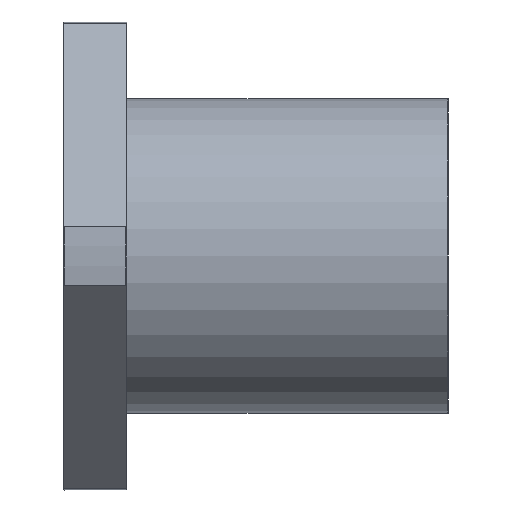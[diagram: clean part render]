
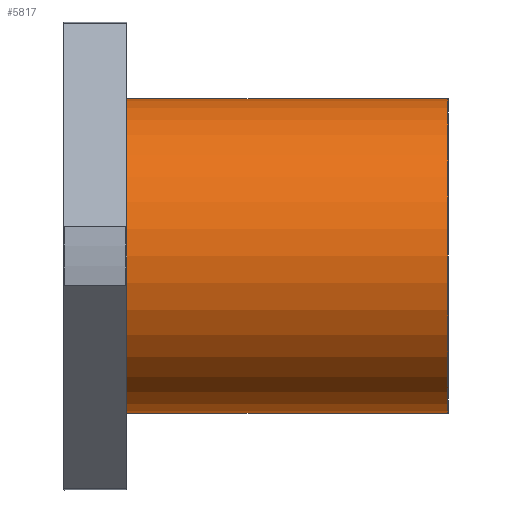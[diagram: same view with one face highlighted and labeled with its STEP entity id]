
A CAD part, front view. The second image highlights one B-rep face of the part: STEP entity #5817.
In plain terms, the highlighted cylindrical face has radius 45 mm (diameter 90 mm), a full revolution.
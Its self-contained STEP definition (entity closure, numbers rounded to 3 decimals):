
#86=CYLINDRICAL_SURFACE('',#6203,45.);
#137=CIRCLE('',#6202,45.);
#138=CIRCLE('',#6204,45.);
#605=ORIENTED_EDGE('',*,*,#2273,.F.);
#606=ORIENTED_EDGE('',*,*,#2272,.T.);
#2272=EDGE_CURVE('',#3101,#3101,#137,.T.);
#2273=EDGE_CURVE('',#3102,#3102,#138,.T.);
#3101=VERTEX_POINT('',#9301);
#3102=VERTEX_POINT('',#9304);
#4767=EDGE_LOOP('',(#605));
#4768=EDGE_LOOP('',(#606));
#5188=FACE_BOUND('',#4767,.T.);
#5189=FACE_BOUND('',#4768,.T.);
#5817=ADVANCED_FACE('',(#5188,#5189),#86,.T.);
#6202=AXIS2_PLACEMENT_3D('',#9300,#6788,#6789);
#6203=AXIS2_PLACEMENT_3D('',#9302,#6790,#6791);
#6204=AXIS2_PLACEMENT_3D('',#9303,#6792,#6793);
#6788=DIRECTION('',(-1.,0.,0.));
#6789=DIRECTION('',(0.,0.,1.));
#6790=DIRECTION('',(-1.,0.,0.));
#6791=DIRECTION('',(0.,0.,1.));
#6792=DIRECTION('',(-1.,0.,0.));
#6793=DIRECTION('',(0.,0.,1.));
#9300=CARTESIAN_POINT('',(109.8,0.,0.));
#9301=CARTESIAN_POINT('',(109.8,0.,45.));
#9302=CARTESIAN_POINT('',(110.,0.,0.));
#9303=CARTESIAN_POINT('',(18.,0.,0.));
#9304=CARTESIAN_POINT('',(18.,0.,45.));
